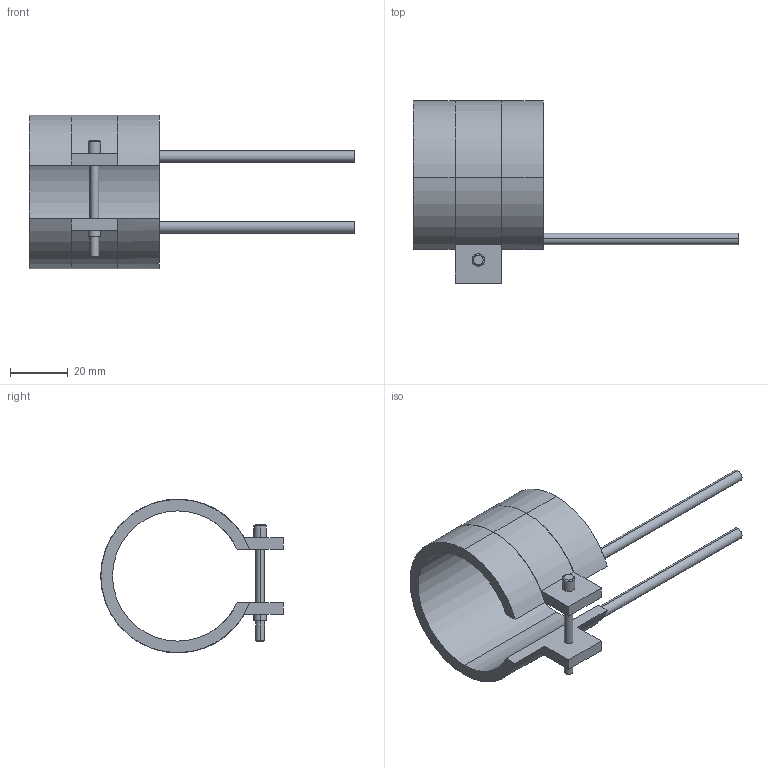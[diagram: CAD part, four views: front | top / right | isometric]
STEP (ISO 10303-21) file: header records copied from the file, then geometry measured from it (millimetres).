
FILE_DESCRIPTION(('CATIA V5 STEP Exchange'),'2;1');
FILE_NAME('C:\Users\Utente\Desktop\IO LAVORO\3D X SITO CF\X SITO\PLASTICA\RF2\14045045.stp','2021-03-31T11:57:34+00:00',('none'),('none'),'CATIA Version 5 Release 20 GA (IN-10)','CATIA V5 STEP AP203','none');
FILE_SCHEMA(('CONFIG_CONTROL_DESIGN'));
Length unit declared in the file: millimetre
Products named in the file (1): 14045045
Bounding box: 112.5 x 63.1 x 53.2 mm (x, y, z)
Volume: 28094.9 mm3; surface area: 16652.4 mm2
Topology: 1 solids, 1 shells, 45 faces, 116 edges, 76 vertices
Faces by surface type: cylinder 24, plane 17, cone 4
Entity records: 1406 total; most frequent: CARTESIAN_POINT 282, ORIENTED_EDGE 232, DIRECTION 195, EDGE_CURVE 116, AXIS2_PLACEMENT_3D 103, VERTEX_POINT 76, CIRCLE 61, VECTOR 52
